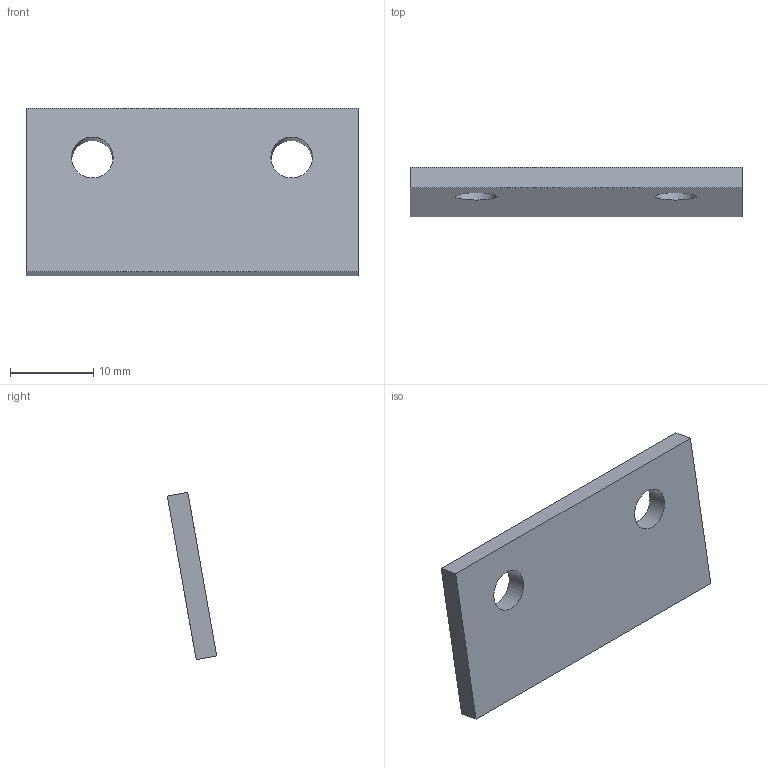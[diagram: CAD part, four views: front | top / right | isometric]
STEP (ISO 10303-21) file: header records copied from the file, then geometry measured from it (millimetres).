
FILE_DESCRIPTION(('golf model'),'2;1');
FILE_NAME('golf','',(''),(''),'golf_step_io','golf','');
FILE_SCHEMA(('AUTOMOTIVE_DESIGN { 1 0 10303 214 1 1 1 1 }'));
Length unit declared in the file: millimetre
Products named in the file (2): ASSEMBLY; sensors.x_flag_bottom
Assembly tree (1 placements, depth 2):
  ASSEMBLY
    sensors.x_flag_bottom
Bounding box: 40 x 5.93 x 20.13 mm (x, y, z)
Volume: 1901.8 mm3; surface area: 1900 mm2
Topology: 1 solids, 1 shells, 8 faces, 18 edges, 12 vertices
Faces by surface type: plane 6, cylinder 2
Full cylindrical faces by diameter (mm): 5 x2
Entity records: 258 total; most frequent: DIRECTION 40, CARTESIAN_POINT 38, ORIENTED_EDGE 32, EDGE_CURVE 16, AXIS2_PLACEMENT_3D 14, EDGE_LOOP 14, VERTEX_POINT 12, VECTOR 12
